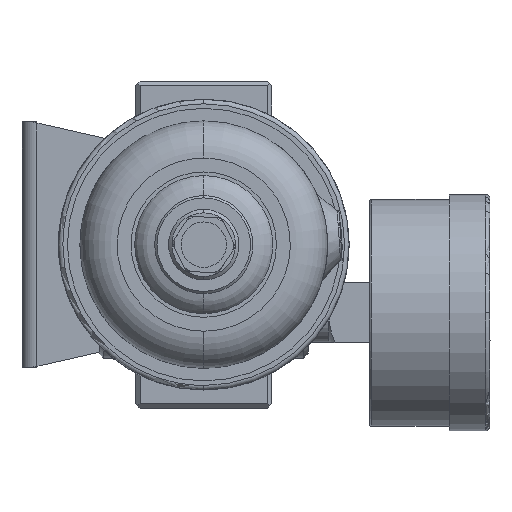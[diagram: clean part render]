
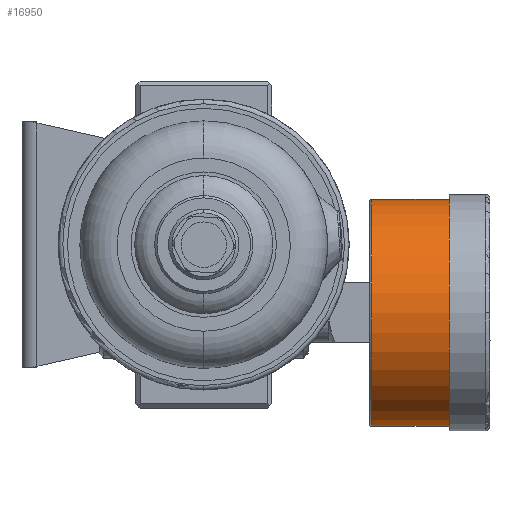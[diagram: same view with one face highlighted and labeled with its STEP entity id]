
A CAD part, front view. The second image highlights one B-rep face of the part: STEP entity #16950.
In plain terms, the highlighted cylindrical face has radius 25 mm (diameter 50 mm), a partial arc.
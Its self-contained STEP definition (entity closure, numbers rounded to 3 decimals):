
#3709 = LINE ( 'NONE', #8453, #43563 ) ;
#4764 = DIRECTION ( 'NONE',  ( -1., 0., 0. ) ) ;
#5061 = CARTESIAN_POINT ( 'NONE',  ( 37., 0., 10. ) ) ;
#5262 = CARTESIAN_POINT ( 'NONE',  ( 54., 0., -15. ) ) ;
#5558 = VERTEX_POINT ( 'NONE', #35366 ) ;
#6017 = AXIS2_PLACEMENT_3D ( 'NONE', #5262, #4764, #24227 ) ;
#6185 = VERTEX_POINT ( 'NONE', #5061 ) ;
#8453 = CARTESIAN_POINT ( 'NONE',  ( 45.5, 0., -40. ) ) ;
#8579 = DIRECTION ( 'NONE',  ( 0., -1., 0. ) ) ;
#8635 = AXIS2_PLACEMENT_3D ( 'NONE', #31765, #35456, #8579 ) ;
#8659 = CARTESIAN_POINT ( 'NONE',  ( 37., 0., -40. ) ) ;
#8717 = ORIENTED_EDGE ( 'NONE', *, *, #43024, .T. ) ;
#9254 = EDGE_LOOP ( 'NONE', ( #29482, #10296, #8717, #49812 ) ) ;
#9672 = FACE_OUTER_BOUND ( 'NONE', #9254, .T. ) ;
#10277 = CARTESIAN_POINT ( 'NONE',  ( 45.5, 0., -15. ) ) ;
#10296 = ORIENTED_EDGE ( 'NONE', *, *, #18855, .F. ) ;
#13983 = CIRCLE ( 'NONE', #8635, 25. ) ;
#14091 = CIRCLE ( 'NONE', #6017, 25. ) ;
#16950 = ADVANCED_FACE ( 'NONE', ( #9672 ), #19909, .T. ) ;
#18855 = EDGE_CURVE ( 'NONE', #26256, #6185, #13983, .T. ) ;
#19909 = CYLINDRICAL_SURFACE ( 'NONE', #26680, 25. ) ;
#20399 = VECTOR ( 'NONE', #40660, 1000. ) ;
#22198 = LINE ( 'NONE', #40841, #20399 ) ;
#24227 = DIRECTION ( 'NONE',  ( 0., 0., -1. ) ) ;
#25865 = DIRECTION ( 'NONE',  ( 1., 0., 0. ) ) ;
#26256 = VERTEX_POINT ( 'NONE', #8659 ) ;
#26510 = CARTESIAN_POINT ( 'NONE',  ( 54., 0., 10. ) ) ;
#26680 = AXIS2_PLACEMENT_3D ( 'NONE', #10277, #25865, #32950 ) ;
#29482 = ORIENTED_EDGE ( 'NONE', *, *, #36036, .F. ) ;
#30460 = DIRECTION ( 'NONE',  ( 1., 0., 0. ) ) ;
#31765 = CARTESIAN_POINT ( 'NONE',  ( 37., 0., -15. ) ) ;
#32950 = DIRECTION ( 'NONE',  ( 0., 0., -1. ) ) ;
#34529 = VERTEX_POINT ( 'NONE', #26510 ) ;
#35366 = CARTESIAN_POINT ( 'NONE',  ( 54., 0., -40. ) ) ;
#35456 = DIRECTION ( 'NONE',  ( -1., 0., 0. ) ) ;
#36036 = EDGE_CURVE ( 'NONE', #6185, #34529, #22198, .T. ) ;
#36945 = EDGE_CURVE ( 'NONE', #5558, #34529, #14091, .T. ) ;
#40660 = DIRECTION ( 'NONE',  ( 1., 0., 0. ) ) ;
#40841 = CARTESIAN_POINT ( 'NONE',  ( 45.5, 0., 10. ) ) ;
#43024 = EDGE_CURVE ( 'NONE', #26256, #5558, #3709, .T. ) ;
#43563 = VECTOR ( 'NONE', #30460, 1000. ) ;
#49812 = ORIENTED_EDGE ( 'NONE', *, *, #36945, .T. ) ;
